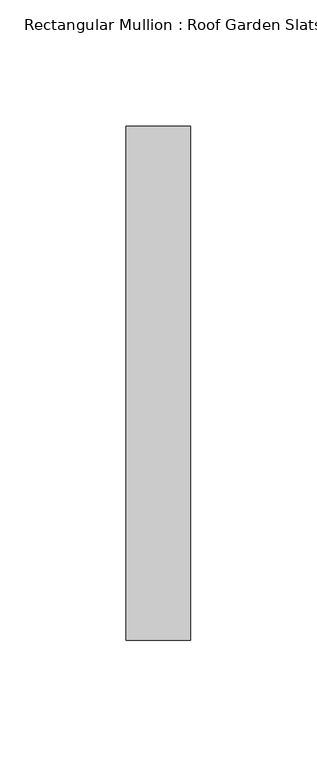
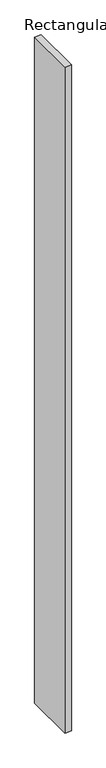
"""IFC4 building model written with IfcOpenShell, lengths in millimetres: member geometry, Rectangular Mullion : Roof Garden Slats."""

from ifc_helpers import new_model, si_unit, frame, origin, place, context, project, spatial, polyline, outline, extrude, source, transform, mapped, element, save


def rectangular_mullion_roof_garden_slats_bf86f4e2(model_context):
    return source(origin(), model_context, "Body", "SweptSolid", [
        extrude(outline(polyline([(12.7, 139.7), (12.7, -63.5), (-12.7, -63.5), (-12.7, 139.7), (12.7, 139.7)])), frame((0.0, 0.0, -2741.35669), z_axis=(0.0, 0.0, 1.0), x_axis=(1.0, 0.0, 0.0)), (0.0, 0.0, 1.0), 2741.35669),
    ])


if __name__ == "__main__":
    model = new_model("IFC4")
    model_context = context("Model", 3, world=origin())
    ifc_project = project(units=[si_unit("LENGTHUNIT", "METRE", prefix="MILLI")], contexts=[model_context])
    site = spatial("IfcSite", under=ifc_project)
    building = spatial("IfcBuilding", under=site)
    placement = place(None, origin())
    rectangular_mullion_roof_garden_slats_shape = rectangular_mullion_roof_garden_slats_bf86f4e2(model_context)
    element("IfcMember", 1, ObjectType="Rectangular Mullion : Roof Garden Slats", at=placement, inside=building, context=model_context, shape_type="MappedRepresentation", body=[
        mapped(rectangular_mullion_roof_garden_slats_shape, transform((0.0, 0.0, 0.0), x_axis=(1.0, 0.0, 0.0), y_axis=(0.0, 1.0, 0.0), z_axis=(0.0, 0.0, 1.0))),
    ])
    save(model, "model.ifc")
